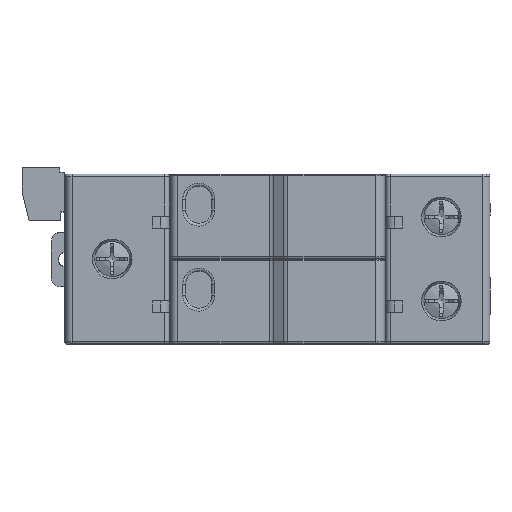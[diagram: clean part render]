
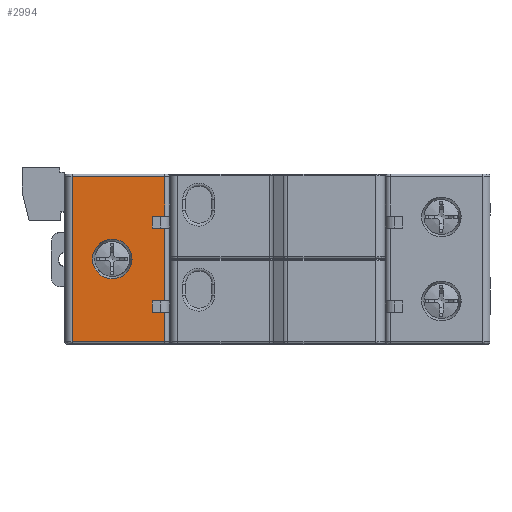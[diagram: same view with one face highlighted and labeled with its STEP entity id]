
A CAD part, top view. The second image highlights one B-rep face of the part: STEP entity #2994.
In plain terms, the highlighted planar face has unit normal (0, 0, 1).
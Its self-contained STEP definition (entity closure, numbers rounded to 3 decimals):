
#128 = CARTESIAN_POINT ( 'NONE',  ( 45., 27.05, 44.1 ) ) ;
#305 = DIRECTION ( 'NONE',  ( -1., 0., 0. ) ) ;
#389 = DIRECTION ( 'NONE',  ( 1., 0., 0. ) ) ;
#718 = CARTESIAN_POINT ( 'NONE',  ( 45., 6.65, 44.1 ) ) ;
#895 = CARTESIAN_POINT ( 'NONE',  ( 21.15, 6.65, 44.1 ) ) ;
#908 = CARTESIAN_POINT ( 'NONE',  ( 18.45, 35.9, 44.1 ) ) ;
#1347 = LINE ( 'NONE', #27040, #30232 ) ;
#1490 = VECTOR ( 'NONE', #15352, 1000. ) ;
#1992 = CARTESIAN_POINT ( 'NONE',  ( 45., 24.55, 44.1 ) ) ;
#2021 = EDGE_CURVE ( 'NONE', #15527, #30950, #1347, .T. ) ;
#2396 = CARTESIAN_POINT ( 'NONE',  ( 18.45, 35.9, 44.1 ) ) ;
#2623 = EDGE_CURVE ( 'NONE', #30950, #21536, #21062, .T. ) ;
#2626 = ORIENTED_EDGE ( 'NONE', *, *, #35414, .T. ) ;
#2994 = ADVANCED_FACE ( 'NONE', ( #25442, #35413 ), #30975, .T. ) ;
#3025 = ORIENTED_EDGE ( 'NONE', *, *, #27882, .T. ) ;
#3816 = CARTESIAN_POINT ( 'NONE',  ( 21.15, 35.9, 44.1 ) ) ;
#3885 = CARTESIAN_POINT ( 'NONE',  ( 1.5, 35.9, 44.1 ) ) ;
#4132 = DIRECTION ( 'NONE',  ( 0., 0., -1. ) ) ;
#4533 = CARTESIAN_POINT ( 'NONE',  ( 18.45, 27.05, 44.1 ) ) ;
#4728 = ORIENTED_EDGE ( 'NONE', *, *, #20440, .F. ) ;
#4807 = DIRECTION ( 'NONE',  ( -1., 0., 0. ) ) ;
#5182 = CIRCLE ( 'NONE', #6565, 4.2 ) ;
#5552 = LINE ( 'NONE', #3885, #36051 ) ;
#6501 = ORIENTED_EDGE ( 'NONE', *, *, #32696, .T. ) ;
#6558 = DIRECTION ( 'NONE',  ( 0., 1., 0. ) ) ;
#6565 = AXIS2_PLACEMENT_3D ( 'NONE', #20861, #4132, #23658 ) ;
#6634 = DIRECTION ( 'NONE',  ( 0., -1., 0. ) ) ;
#9218 = EDGE_LOOP ( 'NONE', ( #30128 ) ) ;
#9777 = VERTEX_POINT ( 'NONE', #16914 ) ;
#10313 = VERTEX_POINT ( 'NONE', #34358 ) ;
#10340 = CARTESIAN_POINT ( 'NONE',  ( 18.45, 9.15, 44.1 ) ) ;
#10918 = EDGE_CURVE ( 'NONE', #11484, #23681, #12694, .T. ) ;
#11484 = VERTEX_POINT ( 'NONE', #24225 ) ;
#11522 = LINE ( 'NONE', #2396, #16014 ) ;
#12495 = EDGE_CURVE ( 'NONE', #24555, #24555, #5182, .T. ) ;
#12694 = LINE ( 'NONE', #23910, #20220 ) ;
#12751 = EDGE_CURVE ( 'NONE', #21536, #33322, #11522, .T. ) ;
#12914 = DIRECTION ( 'NONE',  ( 1., 0., 0. ) ) ;
#13271 = CARTESIAN_POINT ( 'NONE',  ( 21.15, 35.9, 44.1 ) ) ;
#14225 = ORIENTED_EDGE ( 'NONE', *, *, #2623, .T. ) ;
#14683 = EDGE_CURVE ( 'NONE', #33322, #32412, #29161, .T. ) ;
#15352 = DIRECTION ( 'NONE',  ( -1., 0., 0. ) ) ;
#15527 = VERTEX_POINT ( 'NONE', #24745 ) ;
#15621 = CARTESIAN_POINT ( 'NONE',  ( 1.5, 35.5, 44.1 ) ) ;
#15640 = CARTESIAN_POINT ( 'NONE',  ( 45., 9.15, 44.1 ) ) ;
#16014 = VECTOR ( 'NONE', #19126, 1000. ) ;
#16223 = LINE ( 'NONE', #128, #28237 ) ;
#16849 = EDGE_CURVE ( 'NONE', #10313, #18035, #22982, .T. ) ;
#16914 = CARTESIAN_POINT ( 'NONE',  ( 1.5, 0.5, 44.1 ) ) ;
#18035 = VERTEX_POINT ( 'NONE', #4533 ) ;
#18247 = CARTESIAN_POINT ( 'NONE',  ( 21.15, 24.55, 44.1 ) ) ;
#18292 = ORIENTED_EDGE ( 'NONE', *, *, #14683, .T. ) ;
#18307 = CARTESIAN_POINT ( 'NONE',  ( 21.15, 27.05, 44.1 ) ) ;
#19126 = DIRECTION ( 'NONE',  ( 0., 1., 0. ) ) ;
#19968 = DIRECTION ( 'NONE',  ( 0., 0., 1. ) ) ;
#20220 = VECTOR ( 'NONE', #26698, 1000. ) ;
#20440 = EDGE_CURVE ( 'NONE', #15527, #9777, #27259, .T. ) ;
#20480 = AXIS2_PLACEMENT_3D ( 'NONE', #24647, #19968, #389 ) ;
#20613 = DIRECTION ( 'NONE',  ( 0., 1., 0. ) ) ;
#20861 = CARTESIAN_POINT ( 'NONE',  ( 10., 18., 44.1 ) ) ;
#21062 = LINE ( 'NONE', #718, #33308 ) ;
#21452 = LINE ( 'NONE', #13271, #22288 ) ;
#21536 = VERTEX_POINT ( 'NONE', #21565 ) ;
#21565 = CARTESIAN_POINT ( 'NONE',  ( 18.45, 6.65, 44.1 ) ) ;
#21601 = ORIENTED_EDGE ( 'NONE', *, *, #23325, .T. ) ;
#21742 = ORIENTED_EDGE ( 'NONE', *, *, #12751, .T. ) ;
#22288 = VECTOR ( 'NONE', #35584, 1000. ) ;
#22982 = LINE ( 'NONE', #908, #30424 ) ;
#23325 = EDGE_CURVE ( 'NONE', #18035, #28358, #16223, .T. ) ;
#23658 = DIRECTION ( 'NONE',  ( 1., 0., 0. ) ) ;
#23681 = VERTEX_POINT ( 'NONE', #15621 ) ;
#23844 = ORIENTED_EDGE ( 'NONE', *, *, #30976, .T. ) ;
#23910 = CARTESIAN_POINT ( 'NONE',  ( 45., 35.5, 44.1 ) ) ;
#23932 = VECTOR ( 'NONE', #6558, 1000. ) ;
#24225 = CARTESIAN_POINT ( 'NONE',  ( 21.15, 35.5, 44.1 ) ) ;
#24555 = VERTEX_POINT ( 'NONE', #32886 ) ;
#24647 = CARTESIAN_POINT ( 'NONE',  ( 45., 35.9, 44.1 ) ) ;
#24745 = CARTESIAN_POINT ( 'NONE',  ( 21.15, 0.5, 44.1 ) ) ;
#25442 = FACE_OUTER_BOUND ( 'NONE', #30653, .T. ) ;
#26512 = CARTESIAN_POINT ( 'NONE',  ( 45., 0.5, 44.1 ) ) ;
#26698 = DIRECTION ( 'NONE',  ( -1., 0., 0. ) ) ;
#26750 = VECTOR ( 'NONE', #4807, 1000. ) ;
#26849 = LINE ( 'NONE', #1992, #26750 ) ;
#27040 = CARTESIAN_POINT ( 'NONE',  ( 21.15, 35.9, 44.1 ) ) ;
#27259 = LINE ( 'NONE', #26512, #1490 ) ;
#27324 = DIRECTION ( 'NONE',  ( 0., 1., 0. ) ) ;
#27882 = EDGE_CURVE ( 'NONE', #28358, #11484, #21452, .T. ) ;
#28060 = DIRECTION ( 'NONE',  ( 1., 0., 0. ) ) ;
#28237 = VECTOR ( 'NONE', #28060, 1000. ) ;
#28358 = VERTEX_POINT ( 'NONE', #18307 ) ;
#29161 = LINE ( 'NONE', #15640, #35127 ) ;
#30128 = ORIENTED_EDGE ( 'NONE', *, *, #12495, .T. ) ;
#30232 = VECTOR ( 'NONE', #27324, 1000. ) ;
#30424 = VECTOR ( 'NONE', #20613, 1000. ) ;
#30653 = EDGE_LOOP ( 'NONE', ( #3025, #34487, #23844, #4728, #32580, #14225, #21742, #18292, #2626, #6501, #33580, #21601 ) ) ;
#30950 = VERTEX_POINT ( 'NONE', #895 ) ;
#30975 = PLANE ( 'NONE',  #20480 ) ;
#30976 = EDGE_CURVE ( 'NONE', #23681, #9777, #5552, .T. ) ;
#32412 = VERTEX_POINT ( 'NONE', #34175 ) ;
#32580 = ORIENTED_EDGE ( 'NONE', *, *, #2021, .T. ) ;
#32696 = EDGE_CURVE ( 'NONE', #36161, #10313, #26849, .T. ) ;
#32886 = CARTESIAN_POINT ( 'NONE',  ( 14.2, 18., 44.1 ) ) ;
#33308 = VECTOR ( 'NONE', #305, 1000. ) ;
#33322 = VERTEX_POINT ( 'NONE', #10340 ) ;
#33570 = LINE ( 'NONE', #3816, #23932 ) ;
#33580 = ORIENTED_EDGE ( 'NONE', *, *, #16849, .T. ) ;
#34175 = CARTESIAN_POINT ( 'NONE',  ( 21.15, 9.15, 44.1 ) ) ;
#34358 = CARTESIAN_POINT ( 'NONE',  ( 18.45, 24.55, 44.1 ) ) ;
#34487 = ORIENTED_EDGE ( 'NONE', *, *, #10918, .T. ) ;
#35127 = VECTOR ( 'NONE', #12914, 1000. ) ;
#35413 = FACE_BOUND ( 'NONE', #9218, .T. ) ;
#35414 = EDGE_CURVE ( 'NONE', #32412, #36161, #33570, .T. ) ;
#35584 = DIRECTION ( 'NONE',  ( 0., 1., 0. ) ) ;
#36051 = VECTOR ( 'NONE', #6634, 1000. ) ;
#36161 = VERTEX_POINT ( 'NONE', #18247 ) ;
